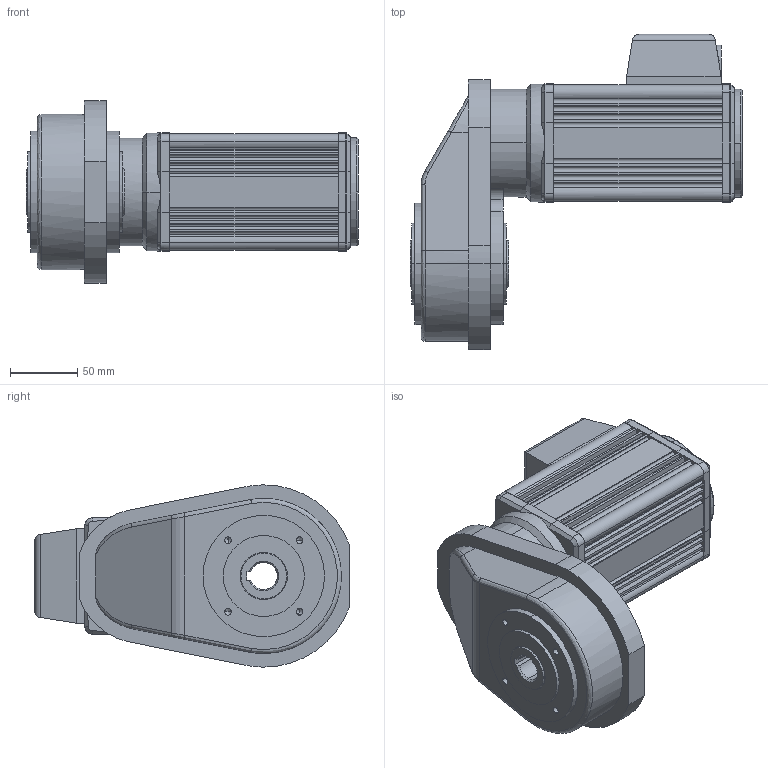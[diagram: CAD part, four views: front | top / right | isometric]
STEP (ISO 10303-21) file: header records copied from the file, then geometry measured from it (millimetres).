
FILE_DESCRIPTION(('OneSpaceDesigner STEP Export'),'2;1');
FILE_NAME('UEG52_FB30.stp','2010-04-13T13:47:09',(''),(''),'OneSpace Designer STEP processor (Jan. 2003) for AP214(CD)(Solid Model)','OneSpace Designer 12.01D 09-Jul-2004 (C) CoCreate Software GmbH','');
FILE_SCHEMA(('AUTOMOTIVE_DESIGN_CC2 {1 2 10303 214 -1 1 5 1}'));
Length unit declared in the file: millimetre
Products named in the file (2): UEG52_FB30
Assembly tree (1 placements, depth 2):
  UEG52_FB30
    UEG52_FB30
Bounding box: 246 x 233.5 x 135 mm (x, y, z)
Volume: 2316675.3 mm3; surface area: 182324.8 mm2
Topology: 1 solids, 1 shells, 431 faces, 1135 edges, 703 vertices
Faces by surface type: plane 201, cylinder 173, cone 38, torus 10, bspline 9
Entity records: 14090 total; most frequent: CARTESIAN_POINT 4112, ORIENTED_EDGE 2238, DIRECTION 1816, EDGE_CURVE 1119, VECTOR 706, LINE 706, VERTEX_POINT 703, AXIS2_PLACEMENT_3D 555
